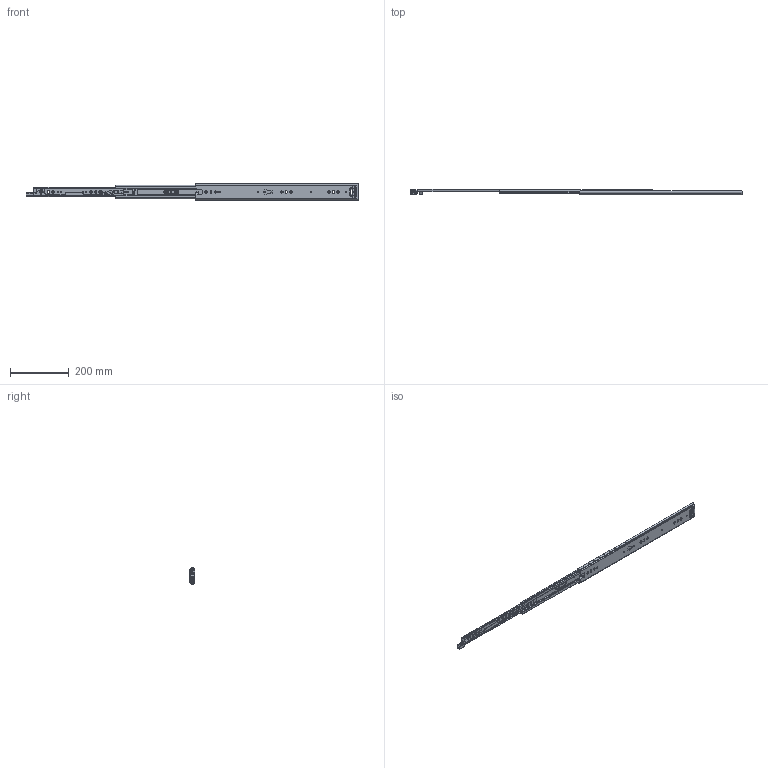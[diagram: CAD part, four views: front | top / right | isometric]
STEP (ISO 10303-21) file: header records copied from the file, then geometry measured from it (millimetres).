
FILE_DESCRIPTION((''),'2;1');
FILE_NAME('KP-57-01ZUZHUANGTU-22_ASM','2023-03-30T',('jishu015'),(''),'PRO/ENGINEER BY PARAMETRIC TECHNOLOGY CORPORATION, 2010280','PRO/ENGINEER BY PARAMETRIC TECHNOLOGY CORPORATION, 2010280','');
FILE_SCHEMA(('CONFIG_CONTROL_DESIGN'));
Products named in the file (22): KP-57-01WEIKE-18_______________; 1057WEIJIAO_______________; WAIKE______________ASM; KP-57-01ZHONGGUI-26__; ZHONGGUIPEIJIAN-11_____________; ZHONGGUISUOKOU-11_____________; KP-57-01ZHONGGUI-26___ASM; 1057XIAOZHUJIA_______________; 1057-5-6GANZHU_______________; 1057XIAOZHUJIA-14GE26___ASM; KP-57-01NEIGUI-22; PJ-57-08_____________; DIAOPIAN-11_____________; 50XINSUOKOU-1_____________; TANHUANG_____________; 1053-3SBANJI122___________; JIAO11___________; KP-57-01NEIGUI-22_ASM; 1053ZHUTIAO-275__; 53-5-6GANZHU___________________; 1053ZHUTIAO-175MM______________ASM; KP-57-01ZUZHUANGTU-22_ASM
Assembly tree (65 placements, depth 3):
  KP-57-01ZUZHUANGTU-22_ASM
    WAIKE______________ASM
      KP-57-01WEIKE-18_______________
      1057WEIJIAO_______________
    KP-57-01ZHONGGUI-26___ASM
      KP-57-01ZHONGGUI-26__
      ZHONGGUIPEIJIAN-11_____________
      ZHONGGUISUOKOU-11_____________
    1057XIAOZHUJIA-14GE26___ASM
      1057XIAOZHUJIA_______________
      1057-5-6GANZHU_______________  x36
    KP-57-01NEIGUI-22_ASM
      KP-57-01NEIGUI-22
      PJ-57-08_____________
      DIAOPIAN-11_____________
      50XINSUOKOU-1_____________
      TANHUANG_____________
      1053-3SBANJI122___________
      JIAO11___________
    1053ZHUTIAO-175MM______________ASM  x2
      1053ZHUTIAO-275__
      53-5-6GANZHU___________________
Bounding box: 1126.92 x 19 x 57.67 mm (x, y, z)
Volume: 240868.2 mm3; surface area: 261666.3 mm2
Topology: 71 solids, 71 shells, 2002 faces, 5725 edges, 3588 vertices
Faces by surface type: cylinder 842, plane 839, sphere 119, bspline 94, cone 60, torus 25, extrusion 23
Entity records: 65895 total; most frequent: CARTESIAN_POINT 16649, ORIENTED_EDGE 10418, DIRECTION 10116, EDGE_CURVE 5209, AXIS2_PLACEMENT_3D 3492, VERTEX_POINT 3360, VECTOR 3132, LINE 3109
